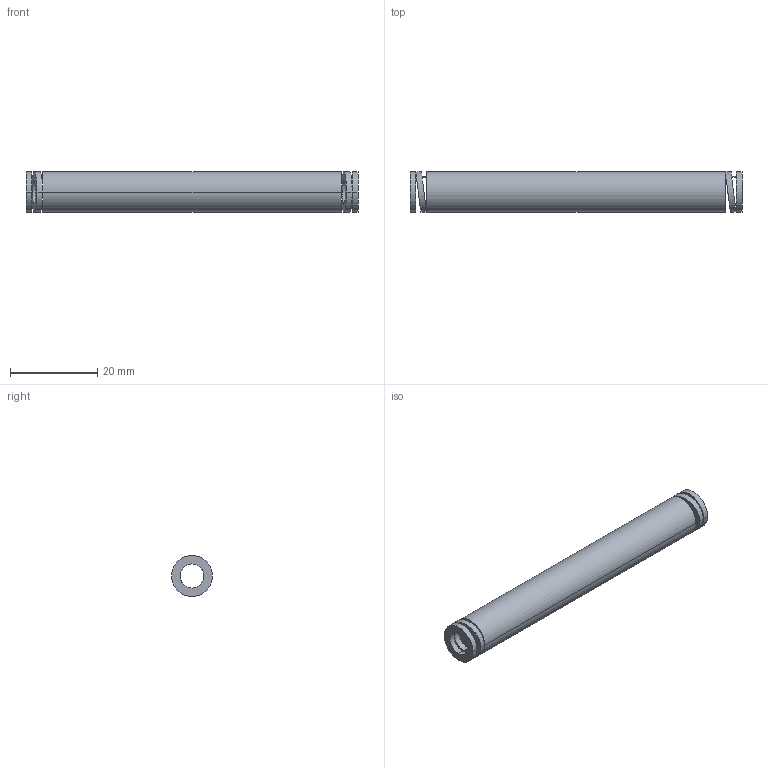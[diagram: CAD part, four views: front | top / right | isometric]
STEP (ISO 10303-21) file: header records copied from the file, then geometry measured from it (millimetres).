
FILE_DESCRIPTION(('CATIA V5 STEP Exchange'),'2;1');
FILE_NAME('C:\Users\Utente\Desktop\IO LAVORO\3D X SITO CF\X SITO\3D files 392B\392-B10-076.stp','2021-08-12T12:52:38+00:00',('none'),('none'),'CATIA Version 5 Release 20 GA (IN-10)','CATIA V5 STEP AP203','none');
FILE_SCHEMA(('CONFIG_CONTROL_DESIGN'));
Length unit declared in the file: millimetre
Products named in the file (1): 392-B10-076
Bounding box: 76 x 9.39 x 9.3 mm (x, y, z)
Volume: 3247.9 mm3; surface area: 3861.8 mm2
Topology: 1 solids, 1 shells, 38 faces, 92 edges, 64 vertices
Faces by surface type: cylinder 28, plane 10
Entity records: 1536 total; most frequent: CARTESIAN_POINT 645, ORIENTED_EDGE 184, DIRECTION 130, EDGE_CURVE 92, AXIS2_PLACEMENT_3D 65, VERTEX_POINT 64, EDGE_LOOP 56, ADVANCED_FACE 38
